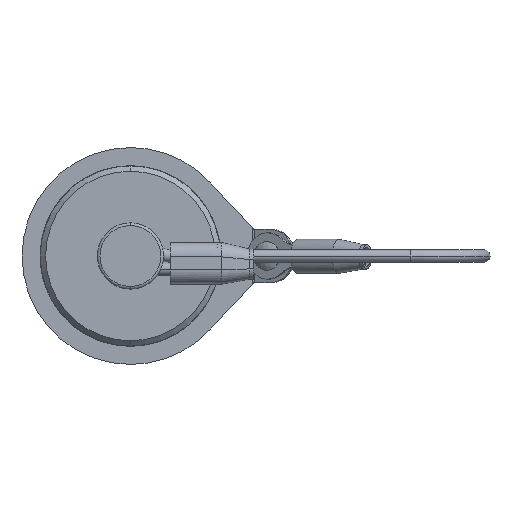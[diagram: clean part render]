
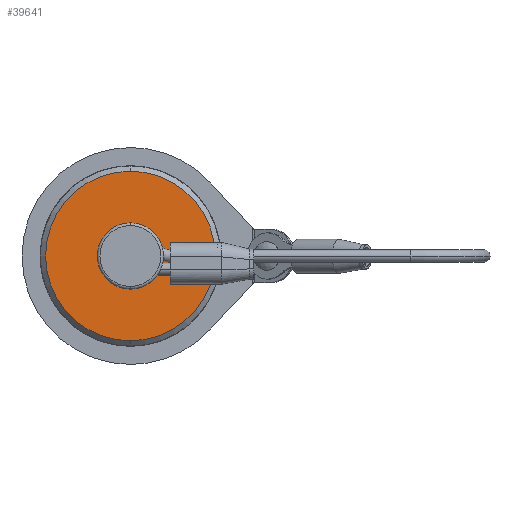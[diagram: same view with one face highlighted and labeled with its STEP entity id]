
A CAD part, left-side view. The second image highlights one B-rep face of the part: STEP entity #39641.
In plain terms, the highlighted planar face has unit normal (-1, 0, 0).
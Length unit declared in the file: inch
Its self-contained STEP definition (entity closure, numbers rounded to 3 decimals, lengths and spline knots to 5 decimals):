
#1656 = CARTESIAN_POINT ( 'NONE',  ( 0.25, 0., 0. ) ) ;
#2369 = ORIENTED_EDGE ( 'NONE', *, *, #64126, .T. ) ;
#4008 = FACE_OUTER_BOUND ( 'NONE', #54718, .T. ) ;
#4831 = DIRECTION ( 'NONE',  ( 0., 0., 1. ) ) ;
#8111 = AXIS2_PLACEMENT_3D ( 'NONE', #50769, #76061, #38114 ) ;
#10287 = CARTESIAN_POINT ( 'NONE',  ( 0.25, 0., 0. ) ) ;
#10716 = FACE_BOUND ( 'NONE', #46355, .T. ) ;
#11525 = DIRECTION ( 'NONE',  ( 0., 0., -1. ) ) ;
#12813 = VERTEX_POINT ( 'NONE', #46769 ) ;
#12820 = DIRECTION ( 'NONE',  ( 0., 0., -1. ) ) ;
#15142 = VERTEX_POINT ( 'NONE', #31894 ) ;
#17335 = ORIENTED_EDGE ( 'NONE', *, *, #50145, .F. ) ;
#18748 = CARTESIAN_POINT ( 'NONE',  ( 0.25, 0.6405, 0. ) ) ;
#22304 = AXIS2_PLACEMENT_3D ( 'NONE', #10287, #68502, #11525 ) ;
#22811 = EDGE_CURVE ( 'NONE', #55764, #12813, #56086, .T. ) ;
#23070 = ORIENTED_EDGE ( 'NONE', *, *, #59697, .F. ) ;
#24958 = CIRCLE ( 'NONE', #22304, 0.6405 ) ;
#31894 = CARTESIAN_POINT ( 'NONE',  ( 0.25, 0., 0.6405 ) ) ;
#32218 = AXIS2_PLACEMENT_3D ( 'NONE', #18748, #57132, #4831 ) ;
#32249 = DIRECTION ( 'NONE',  ( 1., 0., 0. ) ) ;
#33709 = CIRCLE ( 'NONE', #8111, 0.25 ) ;
#38114 = DIRECTION ( 'NONE',  ( 0., 0., -1. ) ) ;
#39641 = ADVANCED_FACE ( 'NONE', ( #10716, #4008 ), #43234, .T. ) ;
#43234 = PLANE ( 'NONE',  #32218 ) ;
#45589 = CIRCLE ( 'NONE', #81958, 0.6405 ) ;
#45942 = DIRECTION ( 'NONE',  ( 1., 0., 0. ) ) ;
#46355 = EDGE_LOOP ( 'NONE', ( #2369, #61724 ) ) ;
#46769 = CARTESIAN_POINT ( 'NONE',  ( 0.25, 0., -0.25 ) ) ;
#50145 = EDGE_CURVE ( 'NONE', #15142, #55856, #24958, .T. ) ;
#50769 = CARTESIAN_POINT ( 'NONE',  ( 0.25, 0., 0. ) ) ;
#52491 = CARTESIAN_POINT ( 'NONE',  ( 0.25, 0., 0. ) ) ;
#54718 = EDGE_LOOP ( 'NONE', ( #23070, #17335 ) ) ;
#55764 = VERTEX_POINT ( 'NONE', #83098 ) ;
#55856 = VERTEX_POINT ( 'NONE', #68253 ) ;
#56086 = CIRCLE ( 'NONE', #76220, 0.25 ) ;
#57132 = DIRECTION ( 'NONE',  ( -1., 0., 0. ) ) ;
#59697 = EDGE_CURVE ( 'NONE', #55856, #15142, #45589, .T. ) ;
#61724 = ORIENTED_EDGE ( 'NONE', *, *, #22811, .T. ) ;
#64126 = EDGE_CURVE ( 'NONE', #12813, #55764, #33709, .T. ) ;
#68253 = CARTESIAN_POINT ( 'NONE',  ( 0.25, 0., -0.6405 ) ) ;
#68502 = DIRECTION ( 'NONE',  ( 1., 0., 0. ) ) ;
#76061 = DIRECTION ( 'NONE',  ( 1., 0., 0. ) ) ;
#76220 = AXIS2_PLACEMENT_3D ( 'NONE', #52491, #32249, #12820 ) ;
#78403 = DIRECTION ( 'NONE',  ( 0., 0., -1. ) ) ;
#81958 = AXIS2_PLACEMENT_3D ( 'NONE', #1656, #45942, #78403 ) ;
#83098 = CARTESIAN_POINT ( 'NONE',  ( 0.25, 0., 0.25 ) ) ;
